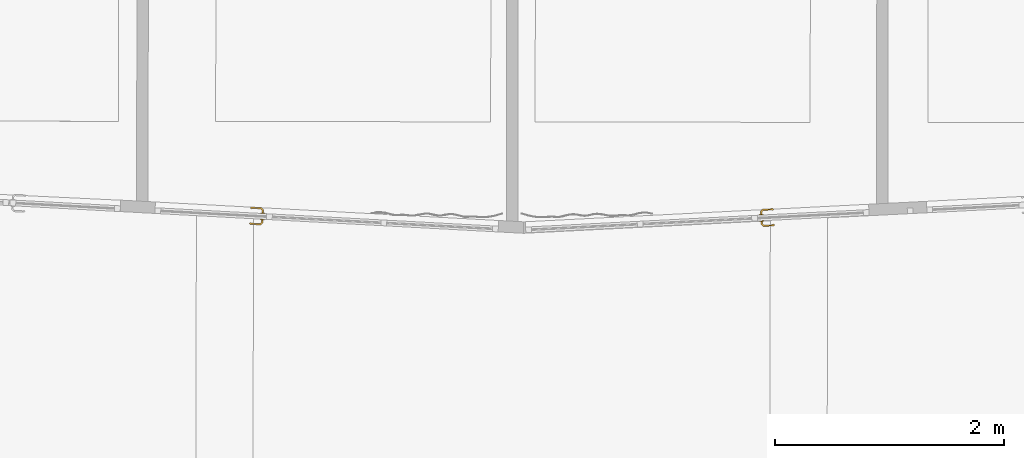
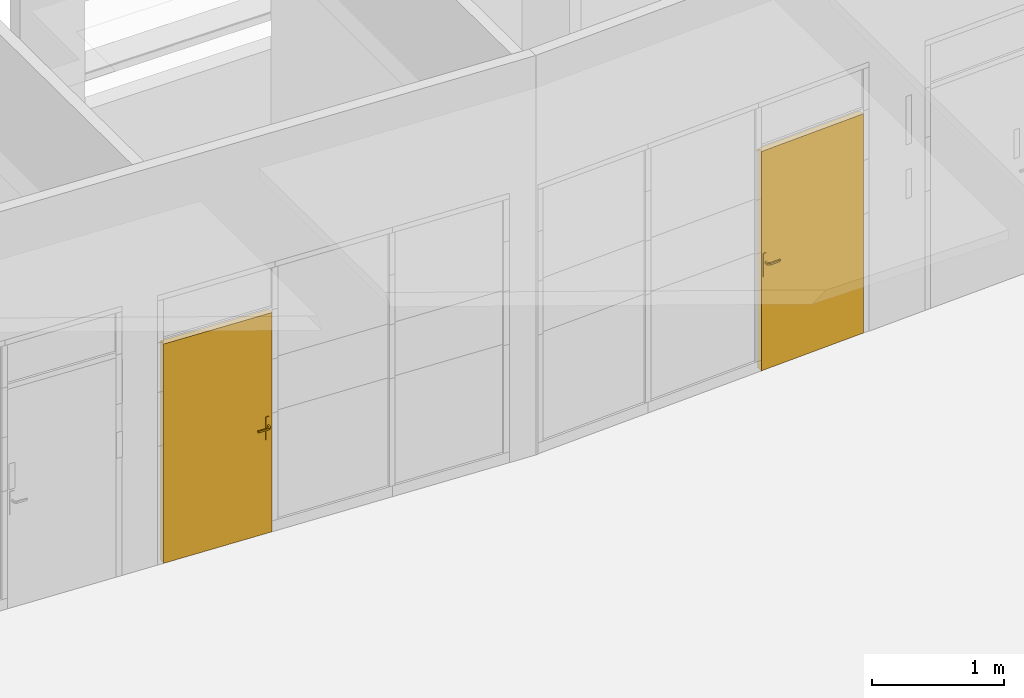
# One storey, part 31 of 43: 2 doors, 2 elements without a shape of their own.
"""IFC2X3 building model written with IfcOpenShell, lengths in metres."""

from ifc_helpers import new_model, entity, si_unit, converted_unit, derived_unit, direction, frame, origin, place, context, subcontext, project, spatial, faceted_brep, source, transform, mapped, material, material_list, type_object, type_shapes, element, aggregate, save


model = new_model("IFC2X3")

# Units and contexts
model_context = context("Model", 3, precision=1e-05, world=origin(), true_north=direction((6.123233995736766e-17, 1.0)))
body_context = subcontext(model_context, "Body", "Model", "MODEL_VIEW")
ifc_project = project(units=[si_unit("LENGTHUNIT", "METRE"), si_unit("AREAUNIT", "SQUARE_METRE"), converted_unit("PLANEANGLEUNIT", "DEGREE", entity("IfcPlaneAngleMeasure", 0.017453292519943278), si_unit("PLANEANGLEUNIT", "RADIAN"), dimensions=[0, 0, 0, 0, 0, 0, 0]), derived_unit("THERMALTRANSMITTANCEUNIT", [(si_unit("MASSUNIT", "GRAM", prefix="KILO"), 1), (si_unit("THERMODYNAMICTEMPERATUREUNIT", "KELVIN"), -1), (si_unit("TIMEUNIT", "SECOND"), -3)])], contexts=[model_context])

# Site, building, storey
site_placement = place(None, frame((1253.6752467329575, 2072.143113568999, 91.49999999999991), z_axis=(0.0, 0.0, 1.0), x_axis=(0.7237211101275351, 0.6900925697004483, 0.0)))
site = spatial("IfcSite", under=ifc_project, at=site_placement, Name="Surface", CompositionType="ELEMENT")
building_placement = place(site_placement, origin())
building = spatial("IfcBuilding", under=site, at=building_placement, CompositionType="ELEMENT")
storey_placement = place(building_placement, frame((0.0, 0.0, -4.629999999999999)))
storey = spatial("IfcBuildingStorey", under=building, at=storey_placement, Name="rez de rue -1.10m", CompositionType="ELEMENT", Elevation=-4.629999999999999)

# Curtain wall, door
curtain_wall_type = type_object("IfcCurtainWallType", Name="Mur-rideau:Menuiserie Int", PredefinedType="NOTDEFINED")
curtain_wall_1_placement = place(storey_placement, frame((0.0, 0.0, 4.629999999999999)))
curtain_wall_1 = element("IfcCurtainWall", 1, at=curtain_wall_1_placement, inside=storey, type_object=curtain_wall_type, Name="Mur-rideau:Menuiserie Int", ObjectType="Mur-rideau:Menuiserie Int")
ifc_material_1 = material(Name="Porte MR - Poignée")
ifc_material_2 = material(Name="Porte MR - Panneau")
ifc_material_list = material_list([ifc_material_1, ifc_material_2])
door_style_1 = type_object("IfcDoorStyle", Name="OMD_1PP:GRZ_simple 2", ConstructionType="NOTDEFINED", OperationType="SINGLE_SWING_RIGHT", ParameterTakesPrecedence=False, Sizeable=False, material=ifc_material_list)
shared_shape_1 = source(origin(), body_context, "Body", "Brep", [
    faceted_brep([(0.326615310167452, 0.07199578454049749, 0.9922195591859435), (0.3189510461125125, 0.06433152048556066, 0.9922195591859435), (0.3161405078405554, 0.06714205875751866, 0.9929999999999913), (0.3249689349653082, 0.07597048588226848, 0.9929999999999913), (0.32829312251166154, 0.06794518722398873, 0.9922195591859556), (0.3218152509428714, 0.0614673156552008, 0.9922195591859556), (0.4295252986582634, 0.029999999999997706, 0.9922195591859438), (0.42547470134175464, 0.029999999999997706, 0.9922195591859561), (0.4254747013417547, 0.05413157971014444, 0.9922195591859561), (0.41166109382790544, 0.06794518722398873, 0.992219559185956), (0.413338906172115, 0.07199578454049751, 0.9922195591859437), (0.42952529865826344, 0.05580939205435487, 0.9922195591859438), (0.3299394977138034, 0.06397048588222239, 0.9930000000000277), (0.32462578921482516, 0.05865677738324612, 0.9930000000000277), (0.4254747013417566, 0.029999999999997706, 1.007780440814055), (0.42547470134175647, 0.054131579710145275, 1.0077804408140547), (0.4214999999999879, 0.052485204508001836, 1.0069999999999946), (0.4214999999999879, 0.029999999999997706, 1.0069999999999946), (0.4295252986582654, 0.029999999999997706, 1.0077804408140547), (0.42952529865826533, 0.05580939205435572, 1.0077804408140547), (0.41333890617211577, 0.07199578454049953, 1.0077804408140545), (0.4116610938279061, 0.06794518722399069, 1.0077804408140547), (0.3282931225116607, 0.06794518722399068, 1.0077804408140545), (0.3266153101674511, 0.0719957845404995, 1.0077804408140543), (0.3189510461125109, 0.06433152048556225, 1.0077804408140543), (0.3218152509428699, 0.06146731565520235, 1.0077804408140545), (0.433500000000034, 0.029999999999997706, 1.006999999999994), (0.4335000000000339, 0.05745576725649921, 1.0069999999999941), (0.4335000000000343, 0.05745576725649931, 0.9929999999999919), (0.4335000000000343, 0.029999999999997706, 0.9929999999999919), (0.41001471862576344, 0.06397048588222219, 1.0069999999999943), (0.4149852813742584, 0.07597048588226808, 1.0069999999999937), (0.4149852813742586, 0.07597048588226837, 0.9929999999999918), (0.36997710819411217, 0.07012492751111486, 1.0078781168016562), (0.36997710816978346, 0.06397048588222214, 1.0069999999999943), (0.3648994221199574, 0.07597048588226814, 1.0069999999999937), (0.32496893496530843, 0.07597048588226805, 1.0069999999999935), (0.3299394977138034, 0.06397048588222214, 1.0069999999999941), (0.3750547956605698, 0.07597048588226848, 0.9929999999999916), (0.32462578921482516, 0.05865677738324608, 1.0069999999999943), (0.4214999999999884, 0.029999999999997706, 0.9930000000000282), (0.4214999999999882, 0.052485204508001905, 0.9930000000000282), (0.4100147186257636, 0.06397048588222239, 0.9930000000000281), (0.36997712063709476, 0.06397048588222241, 0.993000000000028), (0.3699771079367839, 0.07012492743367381, 0.992121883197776), (0.31614050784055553, 0.06714205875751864, 1.0069999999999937)], [[[0, 1, 2, 3]], [[0, 4, 5, 1]], [[6, 7, 8, 9, 10, 11]], [[12, 13, 5, 4]], [[14, 15, 16, 17]], [[14, 18, 19, 20, 21, 15]], [[22, 23, 24, 25]], [[26, 27, 19, 18]], [[28, 27, 26, 29]], [[16, 15, 21, 30]], [[27, 31, 20, 19]], [[32, 31, 27, 28]], [[33, 34, 21]], [[35, 36, 23]], [[35, 20, 31]], [[33, 20, 35]], [[22, 34, 33]], [[33, 23, 22]], [[30, 21, 34]], [[34, 22, 37]], [[20, 33, 21]], [[23, 33, 35]], [[31, 32, 38, 3, 36, 35]], [[13, 12, 37, 39]], [[18, 14, 17, 40, 7, 6, 29, 26]], [[41, 40, 17, 16]], [[29, 6, 11, 28]], [[7, 40, 41, 8]], [[42, 41, 16, 30]], [[28, 11, 10, 32]], [[8, 41, 42, 9]], [[30, 34, 37, 12, 43, 42]], [[10, 44, 38]], [[0, 38, 44]], [[38, 32, 10]], [[38, 0, 3]], [[9, 43, 44]], [[44, 10, 9]], [[44, 43, 4]], [[43, 9, 42]], [[12, 4, 43]], [[0, 44, 4]], [[25, 24, 45, 2, 1, 5, 13, 39]], [[37, 22, 25, 39]], [[23, 36, 45, 24]], [[2, 45, 36, 3]]]),
    faceted_brep([(0.43350000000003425, -0.05765095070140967, 1.0069999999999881), (0.4335000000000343, -0.05765095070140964, 0.992999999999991), (0.4335000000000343, -0.030000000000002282, 0.992999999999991), (0.43350000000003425, -0.030000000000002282, 1.0069999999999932), (0.41512279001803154, -0.07602816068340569, 1.006999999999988), (0.41512279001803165, -0.07602816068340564, 0.9929999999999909), (0.37519230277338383, -0.07602816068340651, 1.006999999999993), (0.3249960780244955, -0.07602816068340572, 1.0069999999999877), (0.32499607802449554, -0.07602816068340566, 0.9929999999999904), (0.36492657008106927, -0.07602816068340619, 0.992999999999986), (0.32465293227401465, -0.058714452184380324, 0.993000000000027), (0.3246529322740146, -0.05871445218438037, 1.0069999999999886), (0.3299666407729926, -0.0640281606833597, 1.0069999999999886), (0.3299666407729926, -0.0640281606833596, 0.9930000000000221), (0.32832026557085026, -0.06800286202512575, 0.99221955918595), (0.3218423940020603, -0.06152499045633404, 0.99221955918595), (0.32664245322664, -0.07205345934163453, 0.9922195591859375), (0.31897818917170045, -0.06438919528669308, 0.9922195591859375), (0.42547470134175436, -0.030000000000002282, 0.9922195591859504), (0.42952529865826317, -0.030000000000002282, 0.9922195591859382), (0.42952529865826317, -0.056004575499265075, 0.9922195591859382), (0.41347641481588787, -0.07205345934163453, 0.9922195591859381), (0.4117986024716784, -0.06800286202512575, 0.9922195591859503), (0.4254747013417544, -0.05432676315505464, 0.9922195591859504), (0.3161676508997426, -0.06719973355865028, 0.9929999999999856), (0.42547470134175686, -0.030000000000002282, 1.007780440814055), (0.42952529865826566, -0.030000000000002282, 1.0077804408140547), (0.4214999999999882, -0.030000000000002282, 0.9930000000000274), (0.4214999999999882, -0.030000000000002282, 1.0069999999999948), (0.4295252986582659, -0.05600457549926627, 1.0077804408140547), (0.4254747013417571, -0.05432676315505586, 1.007780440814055), (0.41179860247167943, -0.06800286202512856, 1.0077804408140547), (0.413476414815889, -0.07205345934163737, 1.0077804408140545), (0.3266424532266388, -0.07205345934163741, 1.007780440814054), (0.32832026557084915, -0.06800286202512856, 1.0077804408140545), (0.32184239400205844, -0.061524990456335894, 1.0077804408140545), (0.3189781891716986, -0.06438919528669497, 1.007780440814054), (0.42149999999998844, -0.0526803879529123, 1.0069999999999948), (0.42149999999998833, -0.05268038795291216, 0.9930000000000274), (0.4101522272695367, -0.06402816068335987, 1.0069999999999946), (0.4101522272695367, -0.06402816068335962, 0.9930000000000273), (0.3700594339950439, -0.07018280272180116, 1.0078781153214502), (0.37005943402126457, -0.0640281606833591, 1.0069999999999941), (0.3700594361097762, -0.06402816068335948, 0.9930000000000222), (0.3700594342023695, -0.07018280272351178, 0.9921218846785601), (0.31616765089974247, -0.0671997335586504, 1.0069999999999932)], [[[0, 1, 2, 3]], [[4, 5, 1, 0]], [[5, 4, 6, 7, 8, 9]], [[10, 11, 12, 13]], [[13, 14, 15, 10]], [[14, 16, 17, 15]], [[18, 19, 20, 21, 22, 23]], [[16, 8, 24, 17]], [[25, 26, 3, 2, 19, 18, 27, 28]], [[3, 26, 29, 0]], [[26, 25, 30, 31, 32, 29]], [[33, 34, 35, 36]], [[25, 28, 37, 30]], [[38, 37, 28, 27]], [[18, 23, 38, 27]], [[2, 1, 20, 19]], [[0, 29, 32, 4]], [[30, 37, 39, 31]], [[40, 39, 37, 38]], [[38, 23, 22, 40]], [[20, 1, 5, 21]], [[32, 41, 6]], [[33, 6, 41]], [[6, 4, 32]], [[6, 33, 7]], [[31, 42, 41]], [[41, 32, 31]], [[41, 42, 34]], [[42, 31, 39]], [[12, 34, 42]], [[33, 41, 34]], [[39, 40, 43, 13, 12, 42]], [[44, 43, 22]], [[9, 8, 16]], [[9, 21, 5]], [[44, 21, 9]], [[14, 43, 44]], [[44, 16, 14]], [[40, 22, 43]], [[43, 14, 13]], [[21, 44, 22]], [[16, 44, 9]], [[10, 15, 17, 24, 45, 36, 35, 11]], [[33, 36, 45, 7]], [[12, 11, 35, 34]], [[45, 24, 8, 7]]]),
    faceted_brep([(0.40750000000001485, 0.02999999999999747, 0.8700000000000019), (0.40750000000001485, 0.02499999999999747, 0.8700000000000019), (0.40750000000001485, 0.02499999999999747, 1.0800000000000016), (0.40750000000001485, 0.02999999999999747, 1.0800000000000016), (0.42750000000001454, 0.024999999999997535, 0.8646410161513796), (0.43785276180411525, 0.024999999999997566, 0.8660039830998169), (0.4475000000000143, 0.0249999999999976, 0.870000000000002), (0.4475000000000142, 0.0249999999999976, 1.0800000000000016), (0.4378527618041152, 0.024999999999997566, 1.0839960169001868), (0.42750000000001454, 0.024999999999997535, 1.085358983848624), (0.41714723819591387, 0.024999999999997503, 1.0839960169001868), (0.41714723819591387, 0.024999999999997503, 0.8660039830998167), (0.44750000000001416, 0.0299999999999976, 1.0800000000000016), (0.44750000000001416, 0.0299999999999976, 0.870000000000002), (0.43785276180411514, 0.029999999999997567, 0.8660039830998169), (0.4275000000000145, 0.029999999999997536, 0.8646410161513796), (0.41714723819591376, 0.029999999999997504, 0.8660039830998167), (0.41714723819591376, 0.029999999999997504, 1.0839960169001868), (0.4275000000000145, 0.029999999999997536, 1.085358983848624), (0.43785276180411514, 0.029999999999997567, 1.0839960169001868)], [[[0, 1, 2, 3]], [[4, 5, 6, 7, 8, 9, 10, 2, 1, 11]], [[12, 13, 14, 15, 16, 0, 3, 17, 18, 19]], [[10, 17, 3, 2]], [[9, 18, 17, 10]], [[8, 19, 18, 9]], [[8, 7, 12, 19]], [[12, 7, 6, 13]], [[5, 14, 13, 6]], [[4, 15, 14, 5]], [[11, 16, 15, 4]], [[11, 1, 0, 16]]]),
    faceted_brep([(0.42750000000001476, -0.030000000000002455, 0.8646410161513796), (0.4378527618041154, -0.030000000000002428, 0.8660039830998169), (0.4475000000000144, -0.030000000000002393, 0.8700000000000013), (0.44750000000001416, -0.030000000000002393, 1.0800000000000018), (0.43785276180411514, -0.030000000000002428, 1.0839960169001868), (0.4275000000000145, -0.030000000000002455, 1.085358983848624), (0.41714723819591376, -0.03000000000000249, 1.0839960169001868), (0.407500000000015, -0.030000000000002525, 1.0800000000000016), (0.407500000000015, -0.030000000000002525, 0.8700000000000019), (0.41714723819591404, -0.03000000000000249, 0.8660039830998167), (0.4378527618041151, -0.02500000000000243, 1.0839960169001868), (0.44750000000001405, -0.025000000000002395, 1.0800000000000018), (0.44750000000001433, -0.025000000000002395, 0.870000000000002), (0.4378527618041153, -0.02500000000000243, 0.8660039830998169), (0.4275000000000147, -0.02500000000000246, 0.8646410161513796), (0.417147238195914, -0.025000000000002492, 0.8660039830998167), (0.40750000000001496, -0.025000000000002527, 0.8700000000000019), (0.4075000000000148, -0.025000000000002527, 1.0800000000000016), (0.4171472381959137, -0.025000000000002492, 1.0839960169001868), (0.42750000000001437, -0.02500000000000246, 1.085358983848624)], [[[0, 1, 2, 3, 4, 5, 6, 7, 8, 9]], [[10, 11, 12, 13, 14, 15, 16, 17, 18, 19]], [[1, 13, 12, 2]], [[0, 14, 13, 1]], [[9, 15, 14, 0]], [[9, 8, 16, 15]], [[16, 8, 7, 17]], [[6, 18, 17, 7]], [[5, 19, 18, 6]], [[4, 10, 19, 5]], [[4, 3, 11, 10]], [[11, 3, 2, 12]]]),
    faceted_brep([(0.46250000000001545, -0.025000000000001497, 2.0349999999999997), (-0.46250000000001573, -0.02499999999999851, 2.0349999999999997), (-0.4625000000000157, -0.02499999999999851, 0.0), (0.46250000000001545, -0.025000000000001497, 0.0), (-0.4625000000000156, 0.025000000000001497, 2.0349999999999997), (-0.4625000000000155, 0.025000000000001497, 0.0), (0.4625000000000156, 0.02499999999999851, 0.0), (0.4625000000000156, 0.02499999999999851, 2.0349999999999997)], [[[0, 1, 2, 3]], [[2, 1, 4, 5]], [[3, 2, 5, 6]], [[0, 3, 6, 7]], [[7, 6, 5, 4]], [[1, 0, 7, 4]]]),
])
type_shapes(door_style_1, [shared_shape_1])
door_1_placement = place(curtain_wall_1_placement, frame((179.12268987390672, 9.482825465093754, -4.629999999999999), z_axis=(0.0, 0.0, 1.0), x_axis=(0.6855443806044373, -0.7280308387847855, 0.0)))
door_1 = element("IfcDoor", 2, at=door_1_placement, type_object=door_style_1, material=ifc_material_list, Name="OMD_1PP:GRZ_simple 2", ObjectType="OMD_1PP:GRZ_simple 2", OverallHeight=2.035, OverallWidth=1.0813459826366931, context=body_context, shape_type="MappedRepresentation", body=[
    mapped(shared_shape_1, transform((0.0, 0.0, 0.0), scale=1.0)),
])
aggregate(curtain_wall_1, [door_1])

curtain_wall_2_placement = place(storey_placement, frame((0.0, 0.0, 4.629999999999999)))
curtain_wall_2 = element("IfcCurtainWall", 3, at=curtain_wall_2_placement, inside=storey, type_object=curtain_wall_type, Name="Mur-rideau:Menuiserie Int", ObjectType="Mur-rideau:Menuiserie Int")
door_style_2 = type_object("IfcDoorStyle", Name="OMD_1PP:GRZ_simple 2", ConstructionType="NOTDEFINED", OperationType="SINGLE_SWING_RIGHT", ParameterTakesPrecedence=False, Sizeable=False, material=ifc_material_list)
shared_shape_2 = source(origin(), body_context, "Body", "Brep", [
    faceted_brep([(-0.3161405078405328, 0.06714205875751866, 0.9929999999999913), (-0.3189510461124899, 0.06433152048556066, 0.9922195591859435), (-0.32661531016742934, 0.07199578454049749, 0.9922195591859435), (-0.3249689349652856, 0.07597048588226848, 0.9929999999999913), (-0.3218152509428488, 0.0614673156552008, 0.9922195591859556), (-0.32829312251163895, 0.06794518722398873, 0.9922195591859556), (-0.42952529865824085, 0.05580939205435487, 0.9922195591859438), (-0.4133389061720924, 0.07199578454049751, 0.9922195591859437), (-0.41166109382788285, 0.06794518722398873, 0.992219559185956), (-0.4254747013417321, 0.05413157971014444, 0.9922195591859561), (-0.42547470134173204, 0.029999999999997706, 0.9922195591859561), (-0.4295252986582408, 0.029999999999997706, 0.9922195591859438), (-0.3246257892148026, 0.058656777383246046, 0.9930000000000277), (-0.3299394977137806, 0.06397048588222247, 0.9930000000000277), (-0.42149999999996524, 0.05248520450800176, 1.0069999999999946), (-0.4254747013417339, 0.054131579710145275, 1.0077804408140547), (-0.425474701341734, 0.029999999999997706, 1.007780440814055), (-0.4214999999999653, 0.029999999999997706, 1.0069999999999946), (-0.4116610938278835, 0.06794518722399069, 1.0077804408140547), (-0.4133389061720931, 0.07199578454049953, 1.0077804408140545), (-0.42952529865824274, 0.05580939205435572, 1.0077804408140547), (-0.4295252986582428, 0.029999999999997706, 1.0077804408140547), (-0.3218152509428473, 0.06146731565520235, 1.0077804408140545), (-0.3189510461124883, 0.06433152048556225, 1.0077804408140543), (-0.3266153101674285, 0.0719957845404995, 1.0077804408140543), (-0.3282931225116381, 0.06794518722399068, 1.0077804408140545), (-0.43350000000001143, 0.05745576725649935, 1.006999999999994), (-0.4335000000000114, 0.029999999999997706, 1.006999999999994), (-0.4335000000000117, 0.029999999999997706, 0.9929999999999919), (-0.4335000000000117, 0.05745576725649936, 0.9929999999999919), (-0.41001471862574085, 0.06397048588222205, 1.0069999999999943), (-0.4149852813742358, 0.0759704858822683, 1.0069999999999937), (-0.414985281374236, 0.0759704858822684, 0.9929999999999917), (-0.36997710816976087, 0.06397048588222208, 1.0069999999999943), (-0.3699771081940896, 0.07012492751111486, 1.0078781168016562), (-0.32496893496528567, 0.07597048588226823, 1.0069999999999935), (-0.36489942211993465, 0.07597048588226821, 1.0069999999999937), (-0.32993949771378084, 0.06397048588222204, 1.0069999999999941), (-0.3750547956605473, 0.07597048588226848, 0.9929999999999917), (-0.32462578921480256, 0.05865677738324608, 1.0069999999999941), (-0.4214999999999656, 0.029999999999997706, 0.9930000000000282), (-0.4214999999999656, 0.052485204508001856, 0.9930000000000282), (-0.41001471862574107, 0.06397048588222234, 0.9930000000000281), (-0.3699771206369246, 0.06397048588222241, 0.993000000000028), (-0.36997710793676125, 0.07012492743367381, 0.992121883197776), (-0.316140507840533, 0.06714205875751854, 1.0069999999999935)], [[[0, 1, 2, 3]], [[1, 4, 5, 2]], [[6, 7, 8, 9, 10, 11]], [[4, 12, 13, 5]], [[14, 15, 16, 17]], [[15, 18, 19, 20, 21, 16]], [[22, 23, 24, 25]], [[20, 26, 27, 21]], [[28, 27, 26, 29]], [[30, 18, 15, 14]], [[19, 31, 26, 20]], [[29, 26, 31, 32]], [[18, 33, 34]], [[24, 35, 36]], [[31, 19, 36]], [[36, 19, 34]], [[34, 33, 25]], [[25, 24, 34]], [[33, 18, 30]], [[37, 25, 33]], [[18, 34, 19]], [[36, 34, 24]], [[32, 31, 36, 35, 3, 38]], [[37, 13, 12, 39]], [[11, 10, 40, 17, 16, 21, 27, 28]], [[17, 40, 41, 14]], [[29, 6, 11, 28]], [[9, 41, 40, 10]], [[14, 41, 42, 30]], [[32, 7, 6, 29]], [[8, 42, 41, 9]], [[42, 43, 13, 37, 33, 30]], [[38, 44, 7]], [[44, 38, 2]], [[7, 32, 38]], [[3, 2, 38]], [[44, 43, 8]], [[8, 7, 44]], [[5, 43, 44]], [[42, 8, 43]], [[43, 5, 13]], [[5, 44, 2]], [[12, 4, 1, 0, 45, 23, 22, 39]], [[39, 22, 25, 37]], [[23, 45, 35, 24]], [[3, 35, 45, 0]]]),
    faceted_brep([(-0.43350000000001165, -0.030000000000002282, 1.0069999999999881), (-0.4335000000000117, -0.030000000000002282, 0.992999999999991), (-0.4335000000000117, -0.05765095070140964, 0.992999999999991), (-0.43350000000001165, -0.05765095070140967, 1.0069999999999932), (-0.415122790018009, -0.07602816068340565, 0.9929999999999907), (-0.41512279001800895, -0.07602816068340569, 1.0069999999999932), (-0.3649265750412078, -0.07602816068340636, 0.992999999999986), (-0.32499607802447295, -0.07602816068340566, 0.9929999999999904), (-0.3249960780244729, -0.07602816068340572, 1.0069999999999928), (-0.3751923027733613, -0.07602816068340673, 1.006999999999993), (-0.32996664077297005, -0.06402816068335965, 0.993000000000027), (-0.32996664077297, -0.0640281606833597, 1.0069999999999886), (-0.324652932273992, -0.05871445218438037, 1.0069999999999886), (-0.32465293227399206, -0.058714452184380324, 0.9930000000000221), (-0.3218423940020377, -0.06152499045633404, 0.99221955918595), (-0.32832026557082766, -0.06800286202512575, 0.99221955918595), (-0.31897818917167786, -0.06438919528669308, 0.9922195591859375), (-0.3266424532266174, -0.07205345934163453, 0.9922195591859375), (-0.4254747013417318, -0.05432676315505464, 0.9922195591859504), (-0.4117986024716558, -0.06800286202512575, 0.9922195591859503), (-0.4134764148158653, -0.07205345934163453, 0.9922195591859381), (-0.4295252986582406, -0.056004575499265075, 0.9922195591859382), (-0.4295252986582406, -0.030000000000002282, 0.9922195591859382), (-0.42547470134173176, -0.030000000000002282, 0.9922195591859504), (-0.31616765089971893, -0.06719973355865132, 0.992999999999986), (-0.42952529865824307, -0.030000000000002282, 1.0077804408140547), (-0.42547470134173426, -0.030000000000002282, 1.007780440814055), (-0.4214999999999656, -0.030000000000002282, 1.006999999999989), (-0.4214999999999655, -0.030000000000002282, 0.9930000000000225), (-0.4295252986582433, -0.05600457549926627, 1.0077804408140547), (-0.4134764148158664, -0.07205345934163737, 1.0077804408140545), (-0.4117986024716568, -0.06800286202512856, 1.0077804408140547), (-0.4254747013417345, -0.05432676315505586, 1.007780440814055), (-0.31897818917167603, -0.06438919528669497, 1.007780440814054), (-0.32184239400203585, -0.061524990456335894, 1.0077804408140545), (-0.32832026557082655, -0.06800286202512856, 1.0077804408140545), (-0.3266424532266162, -0.07205345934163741, 1.007780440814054), (-0.4214999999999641, -0.052680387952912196, 1.0069999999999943), (-0.4214999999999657, -0.05268038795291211, 0.9930000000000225), (-0.410152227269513, -0.06402816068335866, 1.0069999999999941), (-0.41015222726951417, -0.06402816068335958, 0.9930000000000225), (-0.3700594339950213, -0.07018280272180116, 1.0078781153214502), (-0.37005943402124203, -0.06402816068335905, 1.0069999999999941), (-0.37005943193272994, -0.06402816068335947, 0.9930000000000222), (-0.3700594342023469, -0.07018280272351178, 0.9921218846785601), (-0.3161676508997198, -0.06719973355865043, 1.0069999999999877)], [[[0, 1, 2, 3]], [[3, 2, 4, 5]], [[5, 4, 6, 7, 8, 9]], [[10, 11, 12, 13]], [[13, 14, 15, 10]], [[14, 16, 17, 15]], [[18, 19, 20, 21, 22, 23]], [[16, 24, 7, 17]], [[25, 26, 27, 28, 23, 22, 1, 0]], [[3, 29, 25, 0]], [[29, 30, 31, 32, 26, 25]], [[33, 34, 35, 36]], [[32, 37, 27, 26]], [[28, 27, 37, 38]], [[38, 18, 23, 28]], [[21, 2, 1, 22]], [[5, 30, 29, 3]], [[31, 39, 37, 32]], [[38, 37, 39, 40]], [[40, 19, 18, 38]], [[20, 4, 2, 21]], [[9, 41, 30]], [[41, 9, 36]], [[30, 5, 9]], [[8, 36, 9]], [[41, 42, 31]], [[31, 30, 41]], [[35, 42, 41]], [[39, 31, 42]], [[42, 35, 11]], [[35, 41, 36]], [[40, 39, 42, 11, 10, 43]], [[19, 43, 44]], [[17, 7, 6]], [[4, 20, 6]], [[6, 20, 44]], [[44, 43, 15]], [[15, 17, 44]], [[43, 19, 40]], [[10, 15, 43]], [[19, 44, 20]], [[6, 44, 17]], [[12, 34, 33, 45, 24, 16, 14, 13]], [[45, 33, 36, 8]], [[34, 12, 11, 35]], [[8, 7, 24, 45]]]),
    faceted_brep([(-0.40749999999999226, 0.02499999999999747, 1.0800000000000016), (-0.40749999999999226, 0.02499999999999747, 0.8700000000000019), (-0.40749999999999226, 0.02999999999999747, 0.8700000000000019), (-0.40749999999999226, 0.02999999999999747, 1.0800000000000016), (-0.4171472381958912, 0.024999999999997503, 0.8660039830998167), (-0.4171472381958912, 0.024999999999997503, 1.0839960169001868), (-0.42749999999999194, 0.024999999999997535, 1.085358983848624), (-0.4378527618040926, 0.024999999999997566, 1.0839960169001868), (-0.4474999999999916, 0.0249999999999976, 1.0800000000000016), (-0.4474999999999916, 0.0249999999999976, 0.870000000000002), (-0.43785276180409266, 0.024999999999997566, 0.8660039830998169), (-0.42749999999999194, 0.024999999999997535, 0.8646410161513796), (-0.41714723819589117, 0.029999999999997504, 1.0839960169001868), (-0.41714723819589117, 0.029999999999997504, 0.8660039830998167), (-0.4274999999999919, 0.029999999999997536, 0.8646410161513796), (-0.43785276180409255, 0.029999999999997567, 0.8660039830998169), (-0.4474999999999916, 0.0299999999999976, 0.870000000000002), (-0.4474999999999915, 0.0299999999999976, 1.0800000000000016), (-0.43785276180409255, 0.029999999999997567, 1.0839960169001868), (-0.4274999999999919, 0.029999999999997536, 1.085358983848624)], [[[0, 1, 2, 3]], [[4, 1, 0, 5, 6, 7, 8, 9, 10, 11]], [[12, 3, 2, 13, 14, 15, 16, 17, 18, 19]], [[3, 12, 5, 0]], [[5, 12, 19, 6]], [[19, 18, 7, 6]], [[18, 17, 8, 7]], [[9, 8, 17, 16]], [[16, 15, 10, 9]], [[10, 15, 14, 11]], [[14, 13, 4, 11]], [[13, 2, 1, 4]]]),
    faceted_brep([(-0.41714723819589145, -0.03000000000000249, 0.8660039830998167), (-0.4074999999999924, -0.030000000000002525, 0.8700000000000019), (-0.40749999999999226, -0.030000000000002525, 1.0800000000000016), (-0.41714723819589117, -0.03000000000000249, 1.0839960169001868), (-0.4274999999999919, -0.030000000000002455, 1.085358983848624), (-0.43785276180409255, -0.030000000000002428, 1.0839960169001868), (-0.4474999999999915, -0.030000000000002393, 1.0800000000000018), (-0.4474999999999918, -0.030000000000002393, 0.870000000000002), (-0.43785276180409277, -0.030000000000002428, 0.8660039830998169), (-0.42749999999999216, -0.030000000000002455, 0.8646410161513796), (-0.4171472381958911, -0.025000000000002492, 1.0839960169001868), (-0.40749999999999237, -0.025000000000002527, 1.0800000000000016), (-0.40749999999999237, -0.025000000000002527, 0.8700000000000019), (-0.4171472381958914, -0.025000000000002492, 0.8660039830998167), (-0.4274999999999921, -0.02500000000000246, 0.8646410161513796), (-0.4378527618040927, -0.02500000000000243, 0.8660039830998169), (-0.44749999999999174, -0.025000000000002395, 0.8700000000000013), (-0.44749999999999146, -0.025000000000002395, 1.0800000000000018), (-0.43785276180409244, -0.02500000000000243, 1.0839960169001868), (-0.4274999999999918, -0.02500000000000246, 1.085358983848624)], [[[0, 1, 2, 3, 4, 5, 6, 7, 8, 9]], [[10, 11, 12, 13, 14, 15, 16, 17, 18, 19]], [[16, 15, 8, 7]], [[8, 15, 14, 9]], [[14, 13, 0, 9]], [[13, 12, 1, 0]], [[2, 1, 12, 11]], [[11, 10, 3, 2]], [[3, 10, 19, 4]], [[19, 18, 5, 4]], [[18, 17, 6, 5]], [[7, 6, 17, 16]]]),
    faceted_brep([(-0.46249999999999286, -0.025000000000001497, 2.0349999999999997), (-0.46249999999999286, -0.025000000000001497, 0.0), (0.4624999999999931, -0.02499999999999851, 0.0), (0.46249999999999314, -0.02499999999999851, 2.0349999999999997), (0.4624999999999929, 0.025000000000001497, 0.0), (0.462499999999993, 0.025000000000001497, 2.0349999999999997), (-0.4624999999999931, 0.02499999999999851, 0.0), (-0.462499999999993, 0.02499999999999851, 2.0349999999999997)], [[[0, 1, 2, 3]], [[2, 4, 5, 3]], [[1, 6, 4, 2]], [[0, 7, 6, 1]], [[7, 5, 4, 6]], [[3, 5, 7, 0]]]),
])
type_shapes(door_style_2, [shared_shape_2])
door_2_placement = place(curtain_wall_2_placement, frame((182.88154426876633, 5.878216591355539, -4.629999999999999), z_axis=(0.0, 0.0, 1.0), x_axis=(0.7578888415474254, -0.6523837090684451, 0.0)))
door_2 = element("IfcDoor", 4, at=door_2_placement, type_object=door_style_2, material=ifc_material_list, Name="OMD_1PP:GRZ_simple 2", ObjectType="OMD_1PP:GRZ_simple 2", OverallHeight=2.035, OverallWidth=1.0813459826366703, context=body_context, shape_type="MappedRepresentation", body=[
    mapped(shared_shape_2, transform((0.0, 0.0, 0.0), scale=1.0)),
])
aggregate(curtain_wall_2, [door_2])

save(model, "model.ifc")
